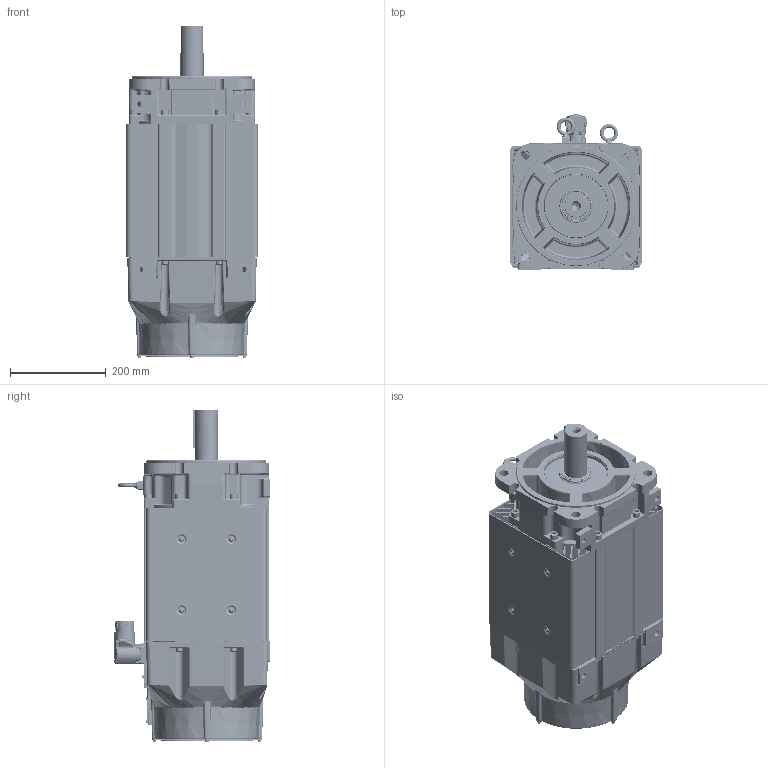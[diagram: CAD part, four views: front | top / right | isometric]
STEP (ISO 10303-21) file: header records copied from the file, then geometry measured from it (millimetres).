
FILE_DESCRIPTION((''),'2;1');
FILE_NAME('VPC-B3002A-QJ12FX_ASM','2016-09-26T',('SRGaddam'),('Rockwell Automation'),'PRO/ENGINEER BY PARAMETRIC TECHNOLOGY CORPORATION, 2012480','PRO/ENGINEER BY PARAMETRIC TECHNOLOGY CORPORATION, 2012480','');
FILE_SCHEMA(('CONFIG_CONTROL_DESIGN'));
Products named in the file (38): 10001404634_AF0; 10001404629_AF6; 10001404635_ASM; 10001585735; 10001441946; 10001737030; 10001448075; 10001587021; 10001405269_AF71; 10001405240_AF78; 10001405369_ASM; 10001946256; 10001956852; 10001989665; 10001713549_ASM; M4X7X14-SOCHD-CAP-SCR; 10001978970; 10001336508; 10001587431; CH4X063; 10001299929; 10001284567; 10000172464; 10001445961; 221404-Q12; 10000231113; 10002279234; 10001443420_ASM; 10001609981; 0002-5004; 10001586887; 10001439772; 0011-2084; 142408_740; PRT0002_740; 142408-1_740_ASM; M740_ASM; VPC-B3002A-QJ12FX_ASM
Assembly tree (73 placements, depth 4):
  VPC-B3002A-QJ12FX_ASM
    10001404635_ASM
      10001404634_AF0
      10001404629_AF6
    10001585735  x8
    10001441946
    10001737030
    10001448075  x2
    10001587021  x8
    10001405369_ASM
      10001405269_AF71
      10001405240_AF78
    10001443420_ASM
      10001946256
      10001713549_ASM
        10001956852
        10001989665
      M4X7X14-SOCHD-CAP-SCR  x4
      10001978970
      10001336508
      10001587431
      CH4X063  x2
      10001299929
      10001284567
      10000172464  x4
      10001445961
      221404-Q12  x5
      10000231113
      10002279234
    10001609981
    0002-5004  x2
    10001586887  x6
    10001439772
    0011-2084
    M740_ASM
      142408-1_740_ASM
        142408_740
        PRT0002_740
      221404-Q12  x4
Bounding box: 275.91 x 324.15 x 692.35 mm (x, y, z)
Volume: 11583109.1 mm3; surface area: 2757180.1 mm2
Topology: 79 solids, 80 shells, 7226 faces, 17062 edges, 10219 vertices
Faces by surface type: cylinder 2218, plane 2045, bspline 1177, cone 1054, torus 593, sphere 134, extrusion 5
Entity records: 206990 total; most frequent: CARTESIAN_POINT 89843, ORIENTED_EDGE 25106, DIRECTION 23080, EDGE_CURVE 12553, AXIS2_PLACEMENT_3D 8866, VERTEX_POINT 7725, EDGE_LOOP 5688, VECTOR 5348
